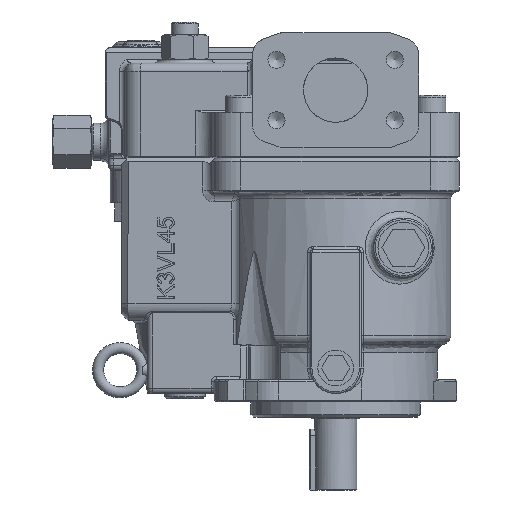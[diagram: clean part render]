
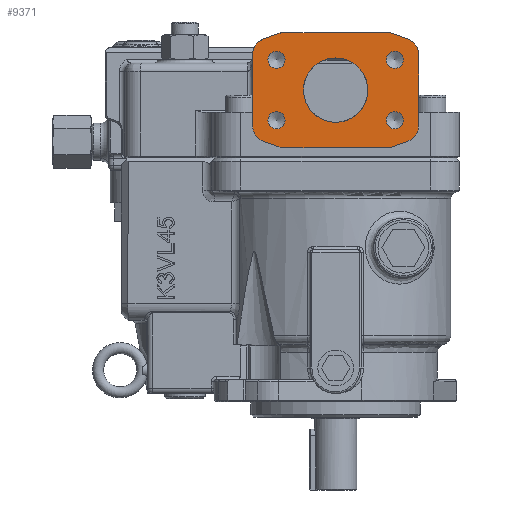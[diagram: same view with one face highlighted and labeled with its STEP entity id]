
A CAD part, left-side view. The second image highlights one B-rep face of the part: STEP entity #9371.
In plain terms, the highlighted planar face has unit normal (-1, 0, 0).
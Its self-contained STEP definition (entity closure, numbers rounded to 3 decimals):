
#4644=CARTESIAN_POINT('',(-80.,42.42,223.207));
#4645=VERTEX_POINT('',#4644);
#4652=CARTESIAN_POINT('',(-80.,32.828,226.698));
#4653=VERTEX_POINT('',#4652);
#4654=CARTESIAN_POINT('',(-80.,32.828,226.698));
#4655=DIRECTION('',(0.0,0.94,-0.342));
#4656=VECTOR('',#4655,10.207);
#4657=LINE('',#4654,#4656);
#4658=EDGE_CURVE('',#4653,#4645,#4657,.T.);
#4691=CARTESIAN_POINT('',(-80.,49.,213.81));
#4692=VERTEX_POINT('',#4691);
#4699=CARTESIAN_POINT('',(-80.,39.,213.81));
#4700=DIRECTION('',(-1.0,0.,0.));
#4701=DIRECTION('',(0.,0.342,0.94));
#4702=AXIS2_PLACEMENT_3D('',#4699,#4700,#4701);
#4703=CIRCLE('',#4702,10.0);
#4704=EDGE_CURVE('',#4645,#4692,#4703,.T.);
#4941=CARTESIAN_POINT('',(-80.,49.,172.19));
#4942=VERTEX_POINT('',#4941);
#4949=CARTESIAN_POINT('',(-80.,49.,213.81));
#4950=DIRECTION('',(0.0,0.0,-1.0));
#4951=VECTOR('',#4950,41.621);
#4952=LINE('',#4949,#4951);
#4953=EDGE_CURVE('',#4692,#4942,#4952,.T.);
#7887=CARTESIAN_POINT('',(-80.,-49.,213.81));
#7888=VERTEX_POINT('',#7887);
#7895=CARTESIAN_POINT('',(-80.,-49.,172.19));
#7896=VERTEX_POINT('',#7895);
#7897=CARTESIAN_POINT('',(-80.,-49.,172.19));
#7898=DIRECTION('',(0.0,0.0,1.0));
#7899=VECTOR('',#7898,41.621);
#7900=LINE('',#7897,#7899);
#7901=EDGE_CURVE('',#7896,#7888,#7900,.T.);
#7925=CARTESIAN_POINT('',(-80.,-42.42,223.207));
#7926=VERTEX_POINT('',#7925);
#7933=CARTESIAN_POINT('',(-80.,-39.,213.81));
#7934=DIRECTION('',(-1.0,0.0,0.0));
#7935=DIRECTION('',(0.0,-1.0,0.0));
#7936=AXIS2_PLACEMENT_3D('',#7933,#7934,#7935);
#7937=CIRCLE('',#7936,10.);
#7938=EDGE_CURVE('',#7888,#7926,#7937,.T.);
#8759=CARTESIAN_POINT('',(-80.,-32.828,226.698));
#8760=VERTEX_POINT('',#8759);
#8767=CARTESIAN_POINT('',(-80.,-42.42,223.207));
#8768=DIRECTION('',(0.0,0.94,0.342));
#8769=VECTOR('',#8768,10.207);
#8770=LINE('',#8767,#8769);
#8771=EDGE_CURVE('',#7926,#8760,#8770,.T.);
#8860=CARTESIAN_POINT('',(-80.,-34.9,215.903));
#8861=VERTEX_POINT('',#8860);
#8862=CARTESIAN_POINT('',(-80.,-34.9,210.85));
#8863=DIRECTION('',(1.0,0.0,0.0));
#8864=DIRECTION('',(0.0,0.0,1.0));
#8865=AXIS2_PLACEMENT_3D('',#8862,#8863,#8864);
#8866=CIRCLE('',#8865,5.053);
#8867=EDGE_CURVE('',#8861,#8861,#8866,.T.);
#8897=CARTESIAN_POINT('',(-80.,34.9,180.203));
#8898=VERTEX_POINT('',#8897);
#8899=CARTESIAN_POINT('',(-80.,34.9,175.15));
#8900=DIRECTION('',(1.0,0.0,0.0));
#8901=DIRECTION('',(0.0,0.0,1.0));
#8902=AXIS2_PLACEMENT_3D('',#8899,#8900,#8901);
#8903=CIRCLE('',#8902,5.053);
#8904=EDGE_CURVE('',#8898,#8898,#8903,.T.);
#8934=CARTESIAN_POINT('',(-80.,34.9,215.903));
#8935=VERTEX_POINT('',#8934);
#8936=CARTESIAN_POINT('',(-80.,34.9,210.85));
#8937=DIRECTION('',(1.0,0.0,0.0));
#8938=DIRECTION('',(0.0,0.0,1.0));
#8939=AXIS2_PLACEMENT_3D('',#8936,#8937,#8938);
#8940=CIRCLE('',#8939,5.053);
#8941=EDGE_CURVE('',#8935,#8935,#8940,.T.);
#8971=CARTESIAN_POINT('',(-80.,-34.9,180.203));
#8972=VERTEX_POINT('',#8971);
#8973=CARTESIAN_POINT('',(-80.,-34.9,175.15));
#8974=DIRECTION('',(1.0,0.0,0.0));
#8975=DIRECTION('',(0.0,0.0,1.0));
#8976=AXIS2_PLACEMENT_3D('',#8973,#8974,#8975);
#8977=CIRCLE('',#8976,5.053);
#8978=EDGE_CURVE('',#8972,#8972,#8977,.T.);
#9047=CARTESIAN_POINT('',(-80.,0.,212.));
#9048=VERTEX_POINT('',#9047);
#9049=CARTESIAN_POINT('',(-80.,0.,193.));
#9050=DIRECTION('',(1.0,0.0,0.0));
#9051=DIRECTION('',(0.0,0.0,-1.0));
#9052=AXIS2_PLACEMENT_3D('',#9049,#9050,#9051);
#9053=CIRCLE('',#9052,19.0);
#9054=EDGE_CURVE('',#9048,#9048,#9053,.T.);
#9107=CARTESIAN_POINT('',(-80.,-42.42,162.793));
#9108=VERTEX_POINT('',#9107);
#9115=CARTESIAN_POINT('',(-80.,-32.828,159.302));
#9116=VERTEX_POINT('',#9115);
#9117=CARTESIAN_POINT('',(-80.,-32.828,159.302));
#9118=DIRECTION('',(0.0,-0.94,0.342));
#9119=VECTOR('',#9118,10.207);
#9120=LINE('',#9117,#9119);
#9121=EDGE_CURVE('',#9116,#9108,#9120,.T.);
#9139=CARTESIAN_POINT('',(-80.,-39.,172.19));
#9140=DIRECTION('',(-1.0,0.,0.));
#9141=DIRECTION('',(0.,-0.342,-0.94));
#9142=AXIS2_PLACEMENT_3D('',#9139,#9140,#9141);
#9143=CIRCLE('',#9142,10.);
#9144=EDGE_CURVE('',#9108,#7896,#9143,.T.);
#9156=CARTESIAN_POINT('',(-80.,-31.118,227.));
#9157=VERTEX_POINT('',#9156);
#9164=CARTESIAN_POINT('',(-80.,-31.118,222.));
#9165=DIRECTION('',(-1.0,0.,0.));
#9166=DIRECTION('',(0.,-0.342,0.94));
#9167=AXIS2_PLACEMENT_3D('',#9164,#9165,#9166);
#9168=CIRCLE('',#9167,5.0);
#9169=EDGE_CURVE('',#8760,#9157,#9168,.T.);
#9181=CARTESIAN_POINT('',(-80.,31.118,227.));
#9182=VERTEX_POINT('',#9181);
#9189=CARTESIAN_POINT('',(-80.,-31.118,227.));
#9190=DIRECTION('',(0.0,1.0,0.0));
#9191=VECTOR('',#9190,62.237);
#9192=LINE('',#9189,#9191);
#9193=EDGE_CURVE('',#9157,#9182,#9192,.T.);
#9206=CARTESIAN_POINT('',(-80.,31.118,222.));
#9207=DIRECTION('',(-1.0,0.0,0.0));
#9208=DIRECTION('',(0.0,0.0,1.0));
#9209=AXIS2_PLACEMENT_3D('',#9206,#9207,#9208);
#9210=CIRCLE('',#9209,5.0);
#9211=EDGE_CURVE('',#9182,#4653,#9210,.T.);
#9223=CARTESIAN_POINT('',(-80.,42.42,162.793));
#9224=VERTEX_POINT('',#9223);
#9231=CARTESIAN_POINT('',(-80.,39.,172.19));
#9232=DIRECTION('',(-1.0,0.0,0.0));
#9233=DIRECTION('',(0.0,1.0,0.0));
#9234=AXIS2_PLACEMENT_3D('',#9231,#9232,#9233);
#9235=CIRCLE('',#9234,10.0);
#9236=EDGE_CURVE('',#4942,#9224,#9235,.T.);
#9248=CARTESIAN_POINT('',(-80.,32.828,159.302));
#9249=VERTEX_POINT('',#9248);
#9256=CARTESIAN_POINT('',(-80.,42.42,162.793));
#9257=DIRECTION('',(0.0,-0.94,-0.342));
#9258=VECTOR('',#9257,10.207);
#9259=LINE('',#9256,#9258);
#9260=EDGE_CURVE('',#9224,#9249,#9259,.T.);
#9272=CARTESIAN_POINT('',(-80.,31.118,159.));
#9273=VERTEX_POINT('',#9272);
#9280=CARTESIAN_POINT('',(-80.,31.118,164.));
#9281=DIRECTION('',(-1.0,0.,0.));
#9282=DIRECTION('',(0.,0.342,-0.94));
#9283=AXIS2_PLACEMENT_3D('',#9280,#9281,#9282);
#9284=CIRCLE('',#9283,5.0);
#9285=EDGE_CURVE('',#9249,#9273,#9284,.T.);
#9297=CARTESIAN_POINT('',(-80.,-31.118,159.));
#9298=VERTEX_POINT('',#9297);
#9305=CARTESIAN_POINT('',(-80.,31.118,159.));
#9306=DIRECTION('',(0.0,-1.0,0.0));
#9307=VECTOR('',#9306,62.237);
#9308=LINE('',#9305,#9307);
#9309=EDGE_CURVE('',#9273,#9298,#9308,.T.);
#9322=CARTESIAN_POINT('',(-80.,-31.118,164.));
#9323=DIRECTION('',(-1.0,0.0,0.0));
#9324=DIRECTION('',(0.0,0.0,-1.0));
#9325=AXIS2_PLACEMENT_3D('',#9322,#9323,#9324);
#9326=CIRCLE('',#9325,5.0);
#9327=EDGE_CURVE('',#9298,#9116,#9326,.T.);
#9333=CARTESIAN_POINT('',(-80.,0.,193.));
#9334=DIRECTION('',(1.0,0.0,0.0));
#9335=DIRECTION('',(0.0,0.0,-1.0));
#9336=AXIS2_PLACEMENT_3D('',#9333,#9334,#9335);
#9337=PLANE('',#9336);
#9338=ORIENTED_EDGE('',*,*,#9236,.T.);
#9339=ORIENTED_EDGE('',*,*,#9260,.T.);
#9340=ORIENTED_EDGE('',*,*,#9285,.T.);
#9341=ORIENTED_EDGE('',*,*,#9309,.T.);
#9342=ORIENTED_EDGE('',*,*,#9327,.T.);
#9343=ORIENTED_EDGE('',*,*,#9121,.T.);
#9344=ORIENTED_EDGE('',*,*,#9144,.T.);
#9345=ORIENTED_EDGE('',*,*,#7901,.T.);
#9346=ORIENTED_EDGE('',*,*,#7938,.T.);
#9347=ORIENTED_EDGE('',*,*,#8771,.T.);
#9348=ORIENTED_EDGE('',*,*,#9169,.T.);
#9349=ORIENTED_EDGE('',*,*,#9193,.T.);
#9350=ORIENTED_EDGE('',*,*,#9211,.T.);
#9351=ORIENTED_EDGE('',*,*,#4658,.T.);
#9352=ORIENTED_EDGE('',*,*,#4704,.T.);
#9353=ORIENTED_EDGE('',*,*,#4953,.T.);
#9354=EDGE_LOOP('',(#9338,#9339,#9340,#9341,#9342,#9343,#9344,#9345,#9346,#9347,#9348,#9349,#9350,#9351,#9352,#9353));
#9355=FACE_OUTER_BOUND('',#9354,.T.);
#9356=ORIENTED_EDGE('',*,*,#8867,.T.);
#9357=EDGE_LOOP('',(#9356));
#9358=FACE_BOUND('',#9357,.T.);
#9359=ORIENTED_EDGE('',*,*,#8904,.T.);
#9360=EDGE_LOOP('',(#9359));
#9361=FACE_BOUND('',#9360,.T.);
#9362=ORIENTED_EDGE('',*,*,#8941,.T.);
#9363=EDGE_LOOP('',(#9362));
#9364=FACE_BOUND('',#9363,.T.);
#9365=ORIENTED_EDGE('',*,*,#8978,.T.);
#9366=EDGE_LOOP('',(#9365));
#9367=FACE_BOUND('',#9366,.T.);
#9368=ORIENTED_EDGE('',*,*,#9054,.T.);
#9369=EDGE_LOOP('',(#9368));
#9370=FACE_BOUND('',#9369,.T.);
#9371=ADVANCED_FACE('',(#9355,#9358,#9361,#9364,#9367,#9370),#9337,.F.);
